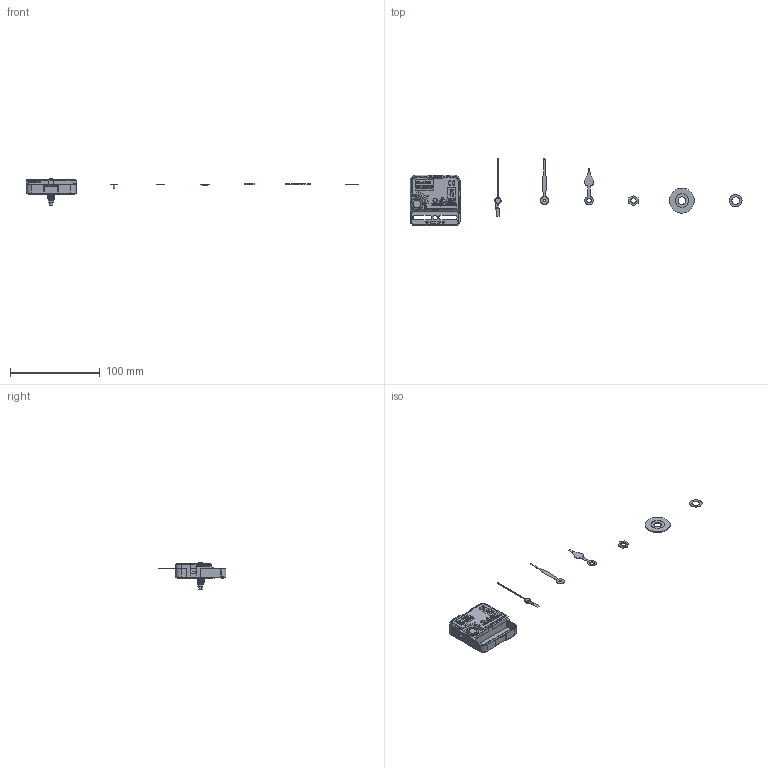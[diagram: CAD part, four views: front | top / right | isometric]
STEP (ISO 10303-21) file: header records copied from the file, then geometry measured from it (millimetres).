
FILE_DESCRIPTION(/* description */ (''),/* implementation_level */ '2;1');
FILE_NAME(/* name */ '',/* time_stamp */ '2024-05-15T10:00:44+08:00',/* author */ (''),/* organization */ (''),/* preprocessor_version */ 'ST-DEVELOPER v20',/* originating_system */ 'Autodesk Translation Framework v12.20.1.177',/* authorisation */ '');
FILE_SCHEMA (('AUTOMOTIVE_DESIGN { 1 0 10303 214 3 1 1 }'));
Products named in the file (16): 时钟机芯一供; X-2023-12-25_ASM_9_ASM; SG-2023-12-25_20; XG-2023-12-25_23; XN_5; 1_5; 2_2; 3_2; 4_2; 零部件9; 零部件10; 零部件11; 零部件12; 零部件13; 零部件14; 零部件15
Assembly tree (15 placements, depth 3):
  时钟机芯一供
    X-2023-12-25_ASM_9_ASM
      SG-2023-12-25_20
      XG-2023-12-25_23
      XN_5
      1_5
      2_2
      3_2
      4_2
    零部件9
    零部件10
    零部件11
    零部件12
    零部件13
    零部件14
    零部件15
Bounding box: 370 x 75.65 x 29.7 mm (x, y, z)
Volume: 13339.6 mm3; surface area: 22676.4 mm2
Topology: 14 solids, 14 shells, 1764 faces, 4711 edges, 3070 vertices
Faces by surface type: plane 1348, cylinder 270, bspline 85, cone 30, sphere 30, torus 1
Full cylindrical faces by diameter (mm): 0.45 x1, 0.8 x1, 0.9 x1, 1 x1, 1.5 x2, 2 x1, 2.1 x2, 2.5 x2, 2.8 x3, 3 x1, 3.2 x1, 3.5 x1, 3.65 x1, 3.7 x1, 4 x2, 4.3 x1, 5 x2, 5.2 x1, 5.6 x1, 5.8 x1, 6 x1, 6.035 x1, 6.6 x1, 8.05 x1, 8.5 x2, 9.2 x1, 10 x1, 14 x2, 15 x1, 27.8 x1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
Entity records: 58287 total; most frequent: CARTESIAN_POINT 13896, ORIENTED_EDGE 9422, DIRECTION 8536, EDGE_CURVE 4711, LINE 3844, VECTOR 3844, VERTEX_POINT 3070, AXIS2_PLACEMENT_3D 2346
